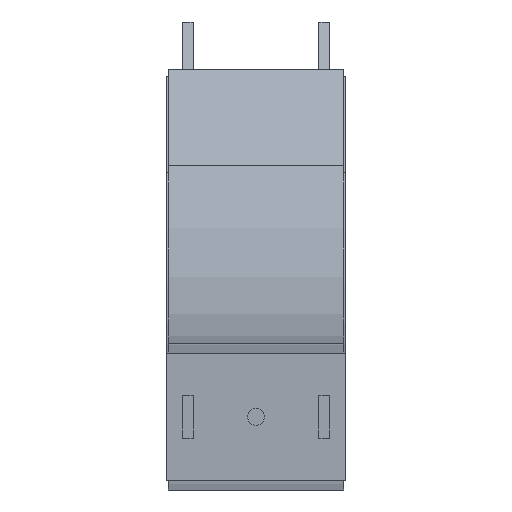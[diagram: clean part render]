
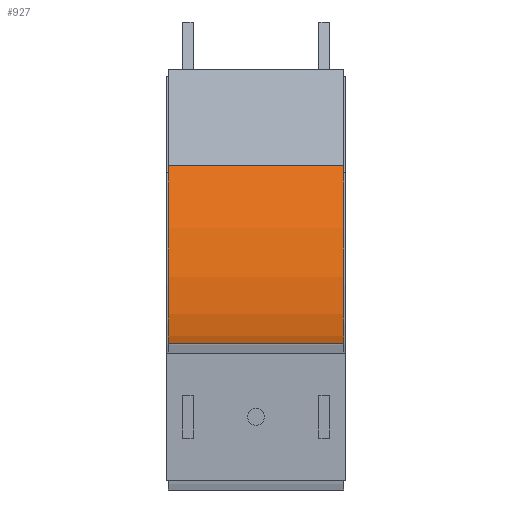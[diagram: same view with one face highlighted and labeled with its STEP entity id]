
A CAD part, left-side view. The second image highlights one B-rep face of the part: STEP entity #927.
In plain terms, the highlighted cylindrical face has radius 357 mm (diameter 714 mm), a partial arc.
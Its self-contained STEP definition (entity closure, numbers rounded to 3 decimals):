
#51=CIRCLE('',#1015,357.);
#52=CIRCLE('',#1016,357.);
#62=CYLINDRICAL_SURFACE('',#1014,357.);
#117=FACE_OUTER_BOUND('',#169,.T.);
#169=EDGE_LOOP('',(#776,#777,#778,#779));
#256=LINE('',#1469,#366);
#261=LINE('',#1484,#371);
#366=VECTOR('',#1203,10.);
#371=VECTOR('',#1216,10.);
#458=VERTEX_POINT('',#1467);
#459=VERTEX_POINT('',#1468);
#464=VERTEX_POINT('',#1482);
#465=VERTEX_POINT('',#1483);
#568=EDGE_CURVE('',#458,#459,#256,.T.);
#575=EDGE_CURVE('',#464,#465,#261,.T.);
#576=EDGE_CURVE('',#464,#458,#51,.T.);
#577=EDGE_CURVE('',#465,#459,#52,.T.);
#776=ORIENTED_EDGE('',*,*,#575,.F.);
#777=ORIENTED_EDGE('',*,*,#576,.T.);
#778=ORIENTED_EDGE('',*,*,#568,.T.);
#779=ORIENTED_EDGE('',*,*,#577,.F.);
#927=ADVANCED_FACE('',(#117),#62,.T.);
#1014=AXIS2_PLACEMENT_3D('',#1481,#1214,#1215);
#1015=AXIS2_PLACEMENT_3D('',#1485,#1217,#1218);
#1016=AXIS2_PLACEMENT_3D('',#1486,#1219,#1220);
#1203=DIRECTION('',(0.,-1.,0.));
#1214=DIRECTION('center_axis',(0.,-1.,0.));
#1215=DIRECTION('ref_axis',(0.,0.,-1.));
#1216=DIRECTION('',(0.,-1.,0.));
#1217=DIRECTION('center_axis',(0.,-1.,0.));
#1218=DIRECTION('ref_axis',(0.,0.,
-1.));
#1219=DIRECTION('center_axis',(0.,-1.,0.));
#1220=DIRECTION('ref_axis',(0.,0.,-1.));
#1467=CARTESIAN_POINT('',(332.437,51.5,147.563));
#1468=CARTESIAN_POINT('',(332.437,-51.5,147.563));
#1469=CARTESIAN_POINT('',(332.437,-51.5,147.563));
#1481=CARTESIAN_POINT('Origin',(80.,0.,400.));
#1482=CARTESIAN_POINT('',(80.,51.5,43.));
#1483=CARTESIAN_POINT('',(80.,-51.5,43.));
#1484=CARTESIAN_POINT('',(80.,-51.5,43.));
#1485=CARTESIAN_POINT('Origin',(80.,51.5,400.));
#1486=CARTESIAN_POINT('Origin',(80.,-51.5,400.));
